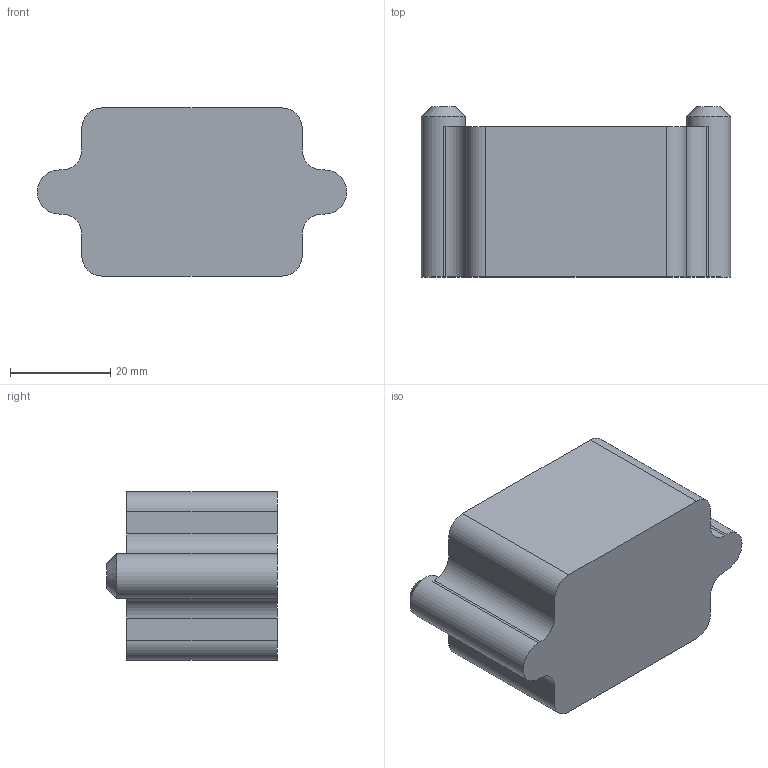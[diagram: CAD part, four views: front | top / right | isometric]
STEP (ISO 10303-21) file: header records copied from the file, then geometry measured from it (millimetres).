
FILE_DESCRIPTION (( 'STEP AP203' ), '1' );
FILE_NAME ('FM Press Block.STEP', '2024-12-02T15:53:19', ( '' ), ( '' ), 'SwSTEP 2.0', 'SolidWorks 2024', '' );
FILE_SCHEMA (( 'CONFIG_CONTROL_DESIGN' ));
Length unit declared in the file: millimetre
Products named in the file (1): FM Press Block
Bounding box: 61.8 x 34 x 33.6 mm (x, y, z)
Volume: 46564.1 mm3; surface area: 13911 mm2
Topology: 1 solids, 1 shells, 224 faces, 365 edges, 242 vertices
Faces by surface type: plane 113, cylinder 109, cone 2
Full cylindrical faces by diameter (mm): 1.75 x99, 8.8 x2
Entity records: 4821 total; most frequent: DIRECTION 934, CARTESIAN_POINT 729, ORIENTED_EDGE 524, AXIS2_PLACEMENT_3D 447, EDGE_LOOP 426, FACE_OUTER_BOUND 325, EDGE_CURVE 262, VERTEX_POINT 242
